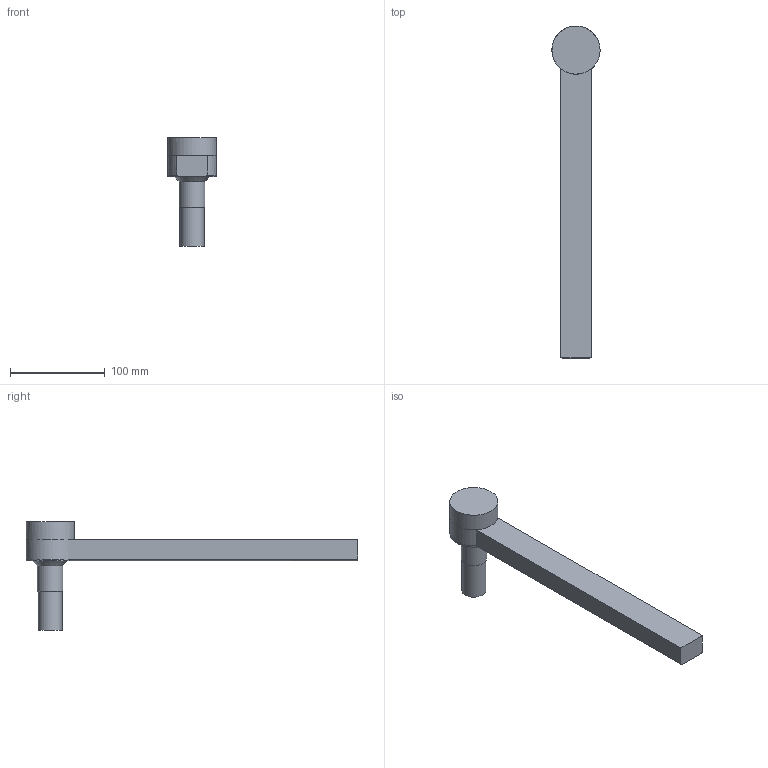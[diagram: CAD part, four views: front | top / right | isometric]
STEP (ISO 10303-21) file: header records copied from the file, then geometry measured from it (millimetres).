
FILE_DESCRIPTION(/* description */ (''),/* implementation_level */ '2;1');
FILE_NAME(/* name */ 'B0473TRUPas.stp',/* time_stamp */ '2019-10-02T15:47:44-04:00',/* author */ (''),/* organization */ (''),/* preprocessor_version */ 'ST-DEVELOPER v16',/* originating_system */ 'SIEMENS PLM Software NX 11.0',/* authorisation */ '');
FILE_SCHEMA (('AUTOMOTIVE_DESIGN { 1 0 10303 214 3 1 1 1 }'));
Length unit declared in the file: inch
Products named in the file (3): B0473TRUPd; B04XX_SubSolid; B0473TRUPas
Assembly tree (2 placements, depth 2):
  B0473TRUPas
    B04XX_SubSolid
    B0473TRUPd
Bounding box: 50.91 x 350.87 x 115.09 mm (x, y, z)
Volume: 411321.4 mm3; surface area: 64785.6 mm2
Topology: 2 solids, 3 shells, 34 faces, 72 edges, 45 vertices
Faces by surface type: plane 13, cylinder 10, cone 6, torus 3, sphere 1, revolution 1
Full cylindrical faces by diameter (mm): 8.731 x2, 25.4 x2, 26.987 x1, 50.927 x1
Entity records: 874 total; most frequent: CARTESIAN_POINT 167, DIRECTION 142, ORIENTED_EDGE 96, AXIS2_PLACEMENT_3D 62, EDGE_LOOP 54, EDGE_CURVE 48, FACE_BOUND 45, VERTEX_POINT 40
